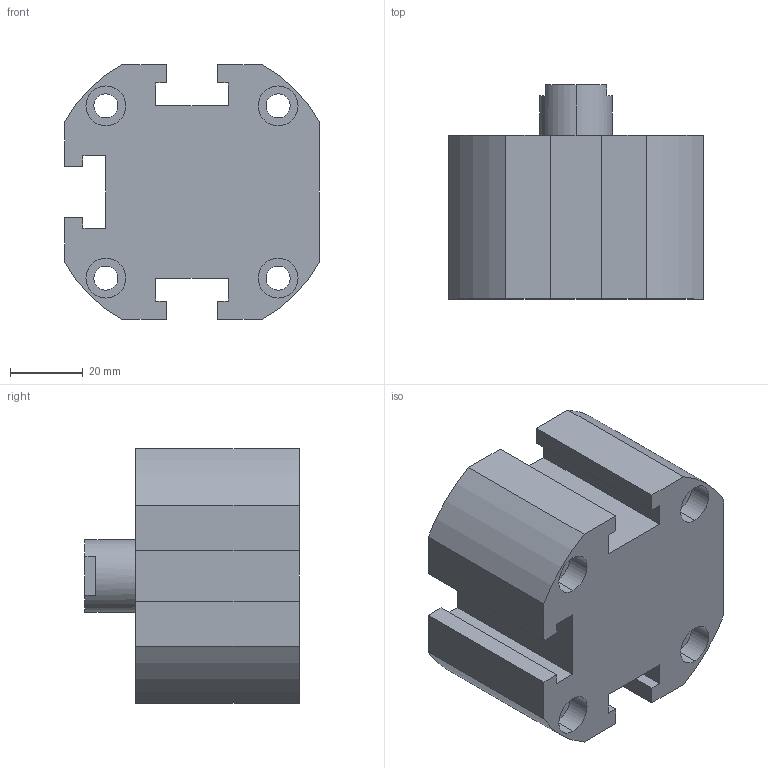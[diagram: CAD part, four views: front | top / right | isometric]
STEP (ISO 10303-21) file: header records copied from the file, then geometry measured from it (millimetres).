
FILE_DESCRIPTION (( 'STEP AP203' ), '1' );
FILE_NAME ('XG#0-50-10.STEP', '2016-05-24T01:38:08', ( '' ), ( '' ), 'SwSTEP 2.0', 'SolidWorks 2014', '' );
FILE_SCHEMA (( 'CONFIG_CONTROL_DESIGN' ));
Length unit declared in the file: millimetre
Products named in the file (1): XG#0-50-10
Bounding box: 70 x 59 x 70 mm (x, y, z)
Volume: 168679.1 mm3; surface area: 29764.5 mm2
Topology: 1 solids, 1 shells, 107 faces, 267 edges, 174 vertices
Faces by surface type: cylinder 52, plane 49, cone 6
Entity records: 3290 total; most frequent: DIRECTION 591, CARTESIAN_POINT 545, ORIENTED_EDGE 526, EDGE_CURVE 263, AXIS2_PLACEMENT_3D 220, VERTEX_POINT 174, LINE 151, VECTOR 151
